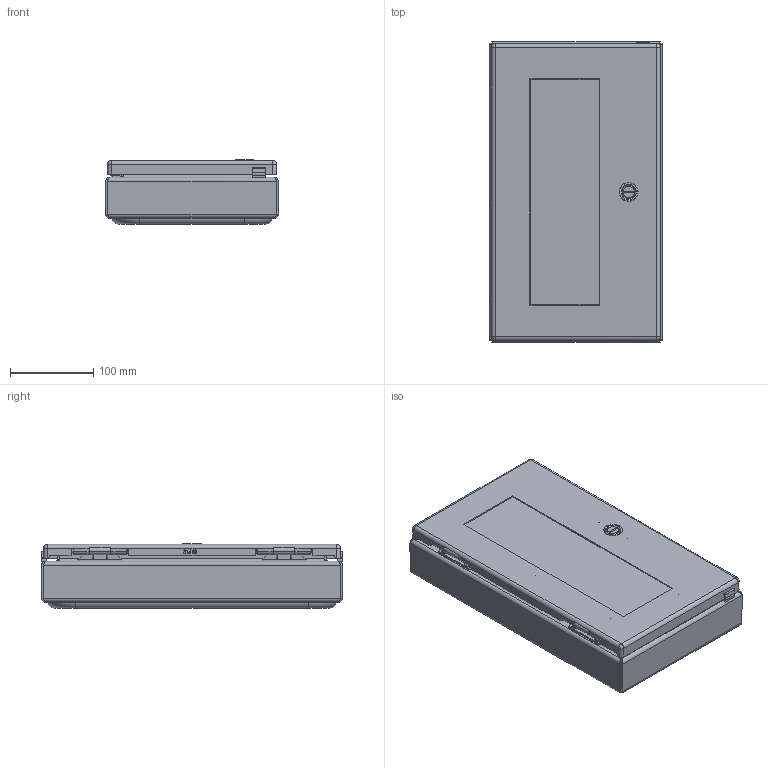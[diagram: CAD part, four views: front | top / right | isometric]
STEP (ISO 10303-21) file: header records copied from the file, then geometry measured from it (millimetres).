
FILE_DESCRIPTION (( 'STEP AP203' ), '1' );
FILE_NAME ('awdh1612n4ss.STEP', '2021-07-16T18:13:40', ( '' ), ( '' ), 'SwSTEP 2.0', 'SolidWorks 2016', '' );
FILE_SCHEMA (( 'CONFIG_CONTROL_DESIGN' ));
Length unit declared in the file: inch
Products named in the file (34): 89082394; 87751114_87751114; 64201001; 89131630; 89067304_B18.6.7M - M5 x 0.8 x 16 Type I Cross Recessed FHMS --16N; 87543026; 89044804; 89044781; 89117470; 89076399; 89159233; 89076193; 87932266; 64202002; 87846295_PEM WNS-M6-0 ---C; 87928711; 99414350; 64203001; 64101002; 89044788; awdh1612n4ss; 87929769_Installed on Pin; 87541995; 87572288; 64138001; 89144636_96194A101; 64210001; 87927840_87927840; 89044774_Main; 89082379; 89044828; 89082409; 87572274; 87930615
Assembly tree (71 placements, depth 4):
  awdh1612n4ss
    89044804
      89117470
      99414350
      89044828
      87846295_PEM WNS-M6-0 ---C  x10
    89159233
      89044774_Main
        89044781
        87751114_87751114  x12
        89044788
      64101002
        64201001
        87932266
        87541995
        64202002
        64210001
        64203001
        87927840_87927840
      89144636_96194A101  x12
      64138001  x2
      89082394
        89082379
        89082409
      87572288  x2
      87572274  x2
    87543026  x2
    89076399  x2
      89076193
      89131630
    87930615  x2
      87928711
      87929769_Installed on Pin
    89067304_B18.6.7M - M5 x 0.8 x 16 Type I Cross Recessed FHMS --16N  x2
Bounding box: 206.76 x 361.7 x 76.83 mm (x, y, z)
Volume: 709644.9 mm3; surface area: 604069.2 mm2
Topology: 66 solids, 66 shells, 3512 faces, 9024 edges, 5699 vertices
Faces by surface type: plane 1744, cylinder 960, bspline 362, cone 290, torus 144, sphere 12
Entity records: 63476 total; most frequent: CARTESIAN_POINT 24342, ORIENTED_EDGE 7654, DIRECTION 6371, EDGE_CURVE 3827, VERTEX_POINT 2395, AXIS2_PLACEMENT_3D 2192, VECTOR 1987, LINE 1987
